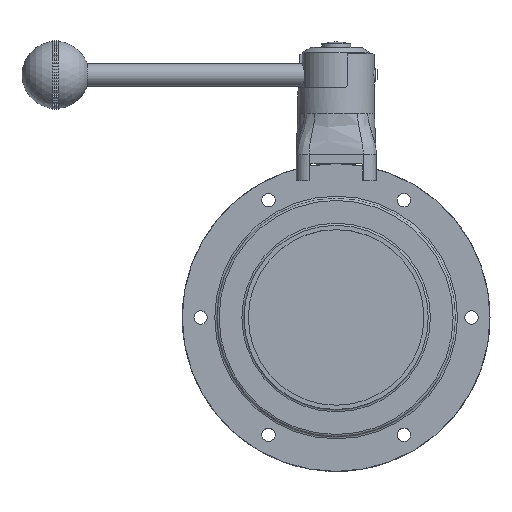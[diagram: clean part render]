
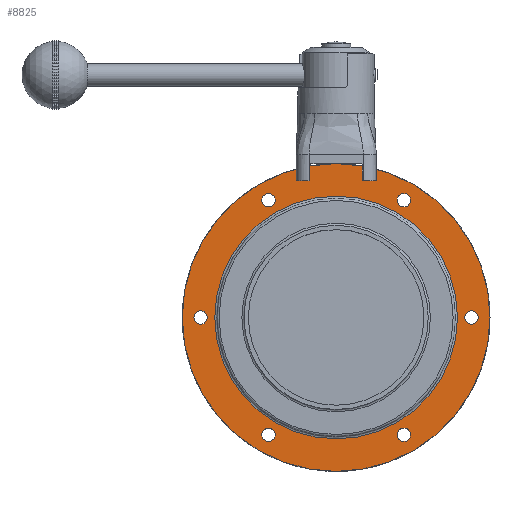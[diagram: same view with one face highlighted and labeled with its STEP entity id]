
A CAD part, top view. The second image highlights one B-rep face of the part: STEP entity #8825.
In plain terms, the highlighted planar face has unit normal (0, 0, 1) as drawn and (1, 0, 0) by its records, which use the part's own axes.
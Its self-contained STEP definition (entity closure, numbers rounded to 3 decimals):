
#559=FACE_BOUND('',#1504,.T.);
#560=FACE_BOUND('',#1505,.T.);
#561=FACE_BOUND('',#1506,.T.);
#562=FACE_BOUND('',#1507,.T.);
#563=FACE_BOUND('',#1508,.T.);
#564=FACE_BOUND('',#1509,.T.);
#565=FACE_BOUND('',#1510,.T.);
#961=FACE_OUTER_BOUND('',#1503,.T.);
#1503=EDGE_LOOP('',(#5899));
#1504=EDGE_LOOP('',(#5900));
#1505=EDGE_LOOP('',(#5901));
#1506=EDGE_LOOP('',(#5902));
#1507=EDGE_LOOP('',(#5903));
#1508=EDGE_LOOP('',(#5904));
#1509=EDGE_LOOP('',(#5905));
#1510=EDGE_LOOP('',(#5906));
#2134=CIRCLE('',#9443,3.1);
#2135=CIRCLE('',#9445,3.1);
#2136=CIRCLE('',#9447,3.1);
#2137=CIRCLE('',#9449,3.1);
#2138=CIRCLE('',#9451,3.1);
#2139=CIRCLE('',#9453,3.1);
#2140=CIRCLE('',#9456,71.);
#2141=CIRCLE('',#9458,56.);
#3681=VERTEX_POINT('',#13186);
#3682=VERTEX_POINT('',#13190);
#3683=VERTEX_POINT('',#13194);
#3684=VERTEX_POINT('',#13198);
#3685=VERTEX_POINT('',#13202);
#3686=VERTEX_POINT('',#13206);
#3688=VERTEX_POINT('',#13232);
#3689=VERTEX_POINT('',#13236);
#4546=EDGE_CURVE('',#3681,#3681,#2134,.T.);
#4548=EDGE_CURVE('',#3682,#3682,#2135,.T.);
#4550=EDGE_CURVE('',#3683,#3683,#2136,.T.);
#4552=EDGE_CURVE('',#3684,#3684,#2137,.T.);
#4554=EDGE_CURVE('',#3685,#3685,#2138,.T.);
#4556=EDGE_CURVE('',#3686,#3686,#2139,.T.);
#4559=EDGE_CURVE('',#3688,#3688,#2140,.T.);
#4561=EDGE_CURVE('',#3689,#3689,#2141,.T.);
#5899=ORIENTED_EDGE('',*,*,#4559,.T.);
#5900=ORIENTED_EDGE('',*,*,#4546,.T.);
#5901=ORIENTED_EDGE('',*,*,#4548,.T.);
#5902=ORIENTED_EDGE('',*,*,#4550,.T.);
#5903=ORIENTED_EDGE('',*,*,#4552,.T.);
#5904=ORIENTED_EDGE('',*,*,#4554,.T.);
#5905=ORIENTED_EDGE('',*,*,#4556,.T.);
#5906=ORIENTED_EDGE('',*,*,#4561,.F.);
#8456=PLANE('',#9457);
#8825=ADVANCED_FACE('',(#961,#559,#560,#561,#562,#563,#564,#565),#8456,
 .T.);
#9443=AXIS2_PLACEMENT_3D('',#13188,#10542,#10543);
#9445=AXIS2_PLACEMENT_3D('',#13192,#10547,#10548);
#9447=AXIS2_PLACEMENT_3D('',#13196,#10552,#10553);
#9449=AXIS2_PLACEMENT_3D('',#13200,#10557,#10558);
#9451=AXIS2_PLACEMENT_3D('',#13204,#10562,#10563);
#9453=AXIS2_PLACEMENT_3D('',#13208,#10567,#10568);
#9456=AXIS2_PLACEMENT_3D('',#13233,#10573,#10574);
#9457=AXIS2_PLACEMENT_3D('',#13235,#10576,#10577);
#9458=AXIS2_PLACEMENT_3D('',#13237,#10578,#10579);
#10542=DIRECTION('center_axis',(-1.,0.,0.));
#10543=DIRECTION('ref_axis',(0.,0.,1.));
#10547=DIRECTION('center_axis',(-1.,0.,0.));
#10548=DIRECTION('ref_axis',(0.,0.,1.));
#10552=DIRECTION('center_axis',(-1.,0.,0.));
#10553=DIRECTION('ref_axis',(0.,0.,1.));
#10557=DIRECTION('center_axis',(-1.,0.,0.));
#10558=DIRECTION('ref_axis',(0.,0.,1.));
#10562=DIRECTION('center_axis',(-1.,0.,0.));
#10563=DIRECTION('ref_axis',(0.,0.,1.));
#10567=DIRECTION('center_axis',(-1.,0.,0.));
#10568=DIRECTION('ref_axis',(0.,0.,1.));
#10573=DIRECTION('center_axis',(1.,0.,0.));
#10574=DIRECTION('ref_axis',(0.,0.,-1.));
#10576=DIRECTION('center_axis',(1.,0.,0.));
#10577=DIRECTION('ref_axis',(0.,0.,-1.));
#10578=DIRECTION('center_axis',(1.,0.,0.));
#10579=DIRECTION('ref_axis',(0.,0.,-1.));
#13186=CARTESIAN_POINT('',(12.,-54.127,28.15));
#13188=CARTESIAN_POINT('Origin',(12.,-54.127,31.25));
#13190=CARTESIAN_POINT('',(12.,0.,-65.6));
#13192=CARTESIAN_POINT('Origin',(12.,0.,-62.5));
#13194=CARTESIAN_POINT('',(12.,0.,59.4));
#13196=CARTESIAN_POINT('Origin',(12.,0.,62.5));
#13198=CARTESIAN_POINT('',(12.,54.127,-34.35));
#13200=CARTESIAN_POINT('Origin',(12.,54.127,-31.25));
#13202=CARTESIAN_POINT('',(12.,-54.127,-34.35));
#13204=CARTESIAN_POINT('Origin',(12.,-54.127,-31.25));
#13206=CARTESIAN_POINT('',(12.,54.127,28.15));
#13208=CARTESIAN_POINT('Origin',(12.,54.127,31.25));
#13232=CARTESIAN_POINT('',(12.,-71.,0.));
#13233=CARTESIAN_POINT('Origin',(12.,0.,0.));
#13235=CARTESIAN_POINT('Origin',(12.,56.,0.));
#13236=CARTESIAN_POINT('',(12.,0.,56.));
#13237=CARTESIAN_POINT('Origin',(12.,0.,0.));
